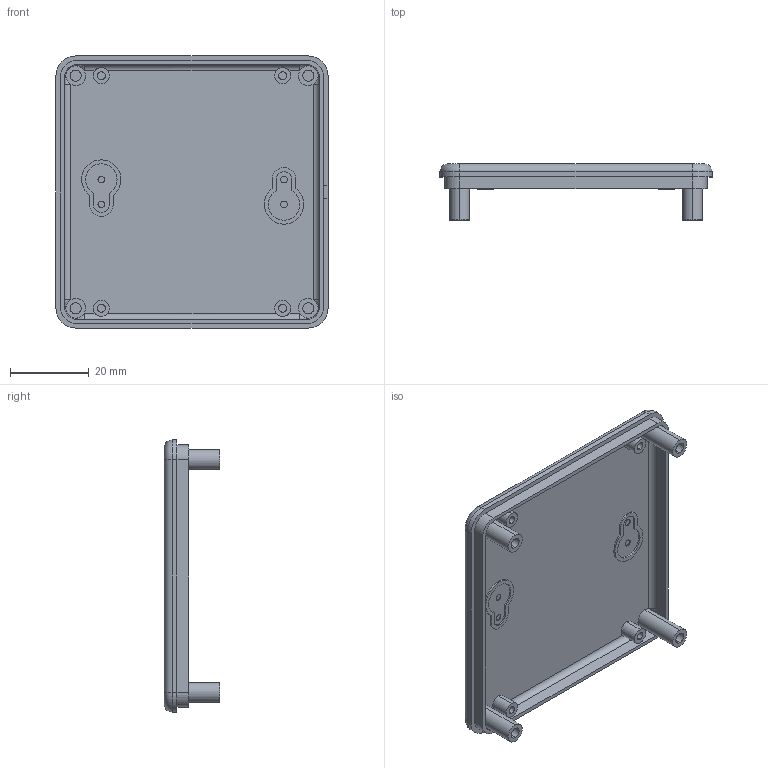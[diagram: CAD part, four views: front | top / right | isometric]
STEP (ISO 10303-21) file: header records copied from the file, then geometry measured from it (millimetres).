
FILE_DESCRIPTION (( 'STEP AP214' ), '1' );
FILE_NAME ('Tapa PP42.STEP', '2016-09-09T10:07:48', ( 'aaa' ), ( '' ), 'SwSTEP 2.0', 'SolidWorks 2013', '' );
FILE_SCHEMA (( 'AUTOMOTIVE_DESIGN' ));
Length unit declared in the file: millimetre
Products named in the file (1): Tapa PP42
Bounding box: 69 x 14.14 x 69 mm (x, y, z)
Volume: 10240.2 mm3; surface area: 13565.3 mm2
Topology: 1 solids, 1 shells, 139 faces, 336 edges, 216 vertices
Faces by surface type: cylinder 72, plane 51, bspline 12, torus 4
Entity records: 4628 total; most frequent: CARTESIAN_POINT 1268, DIRECTION 740, ORIENTED_EDGE 672, EDGE_CURVE 336, AXIS2_PLACEMENT_3D 296, VERTEX_POINT 216, CIRCLE 168, EDGE_LOOP 156
